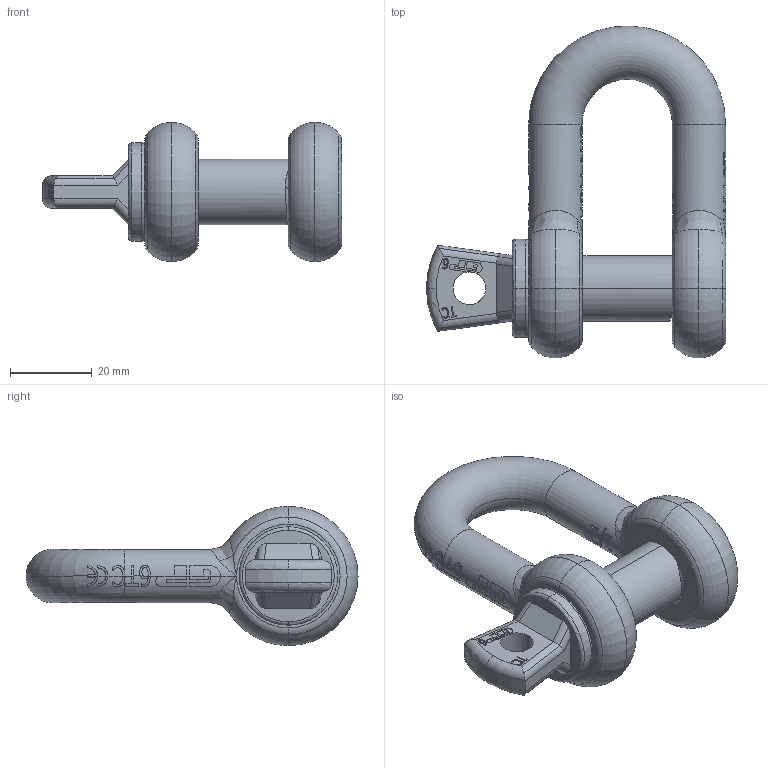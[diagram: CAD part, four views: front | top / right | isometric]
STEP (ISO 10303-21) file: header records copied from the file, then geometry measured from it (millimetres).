
FILE_DESCRIPTION(('STEP AP214'),'1');
FILE_NAME('gpgdbb13.stp','2017-05-03T01:34:17',('TraceParts'),('TraceParts S.A.'),'Spatial InterOp 3D',' ',' ');
FILE_SCHEMA(('automotive_design'));
Length unit declared in the file: millimetre
Products named in the file (2): gpgdbb13_1; gpgdbb13_2
Bounding box: 73 x 81 x 34 mm (x, y, z)
Volume: 43058.8 mm3; surface area: 15175.3 mm2
Topology: 2 solids, 2 shells, 565 faces, 1805 edges, 1246 vertices
Faces by surface type: plane 213, bspline 172, cylinder 131, torus 46, cone 3
Entity records: 28813 total; most frequent: CARTESIAN_POINT 10798, ORIENTED_EDGE 3594, EDGE_CURVE 1797, DIRECTION 1629, VERTEX_POINT 1246, B_SPLINE_CURVE_WITH_KNOTS 1103, EDGE_LOOP 581, STYLED_ITEM 567
